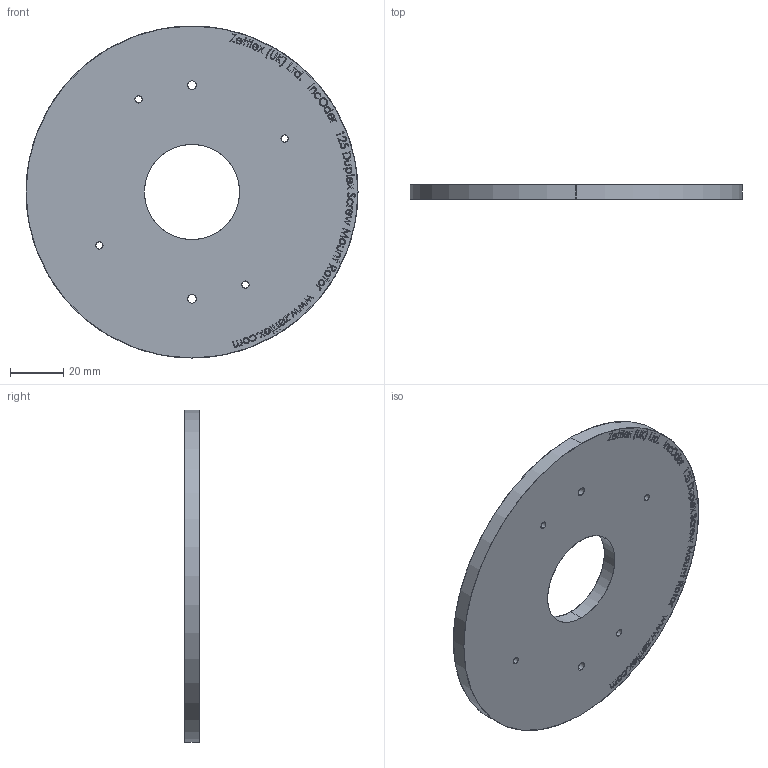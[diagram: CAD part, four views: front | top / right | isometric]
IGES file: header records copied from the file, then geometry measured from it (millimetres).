
Start section: SolidWorks IGES file using analytic representation for surfaces
Global section: file name: C:\Zettlex Data\Mechanical Drawings\1011\125 Duplex Screw Mount Rotor Rev 1-2.IGS; native system: SolidWorks 2015; preprocessor: SolidWorks 2015; author: Nigel; date: 150914.153734; units: millimetre
Bounding box: 125 x 5.6 x 125 mm (x, y, z)
Surface area: 25844.1 mm2 (no closed solid volume)
Topology: 0 solids, 0 shells, 779 faces, 9413 edges, 9413 vertices
Faces by surface type: bspline 755, revolution 24
